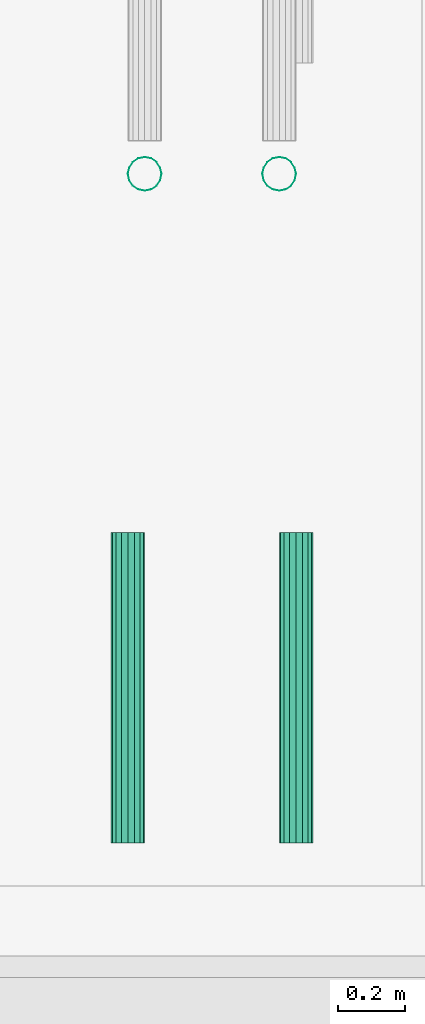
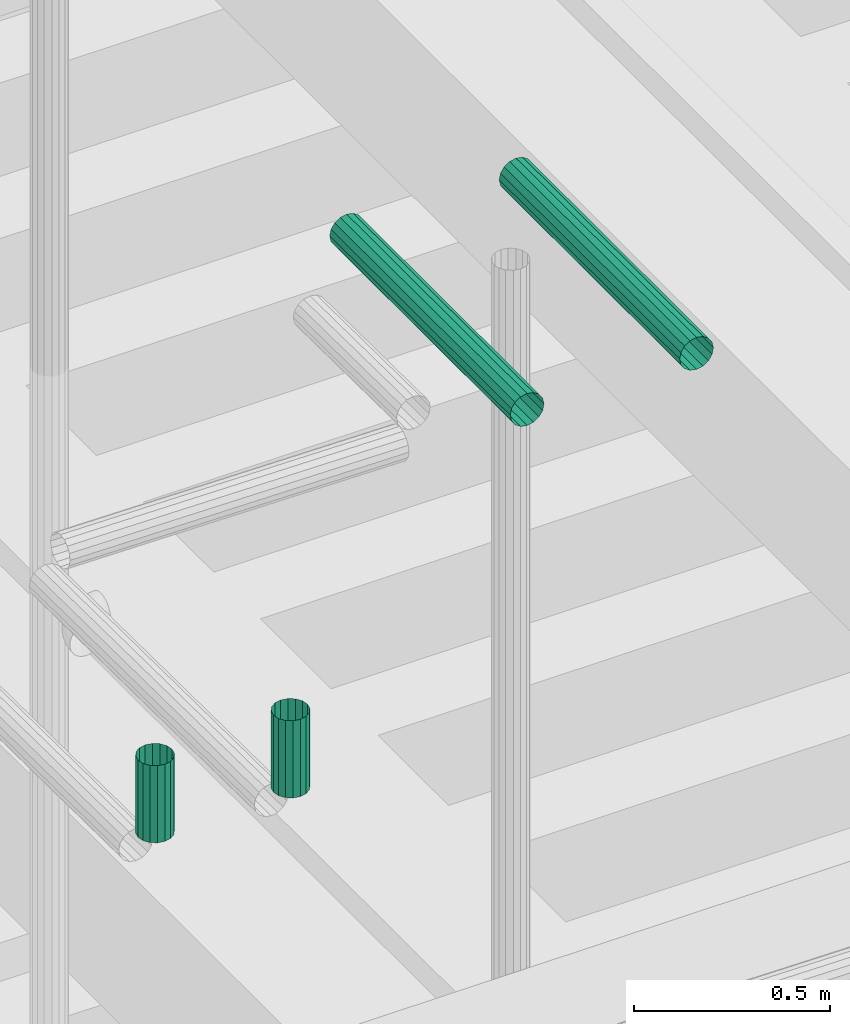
# One storey, part 71 of 108: 4 flow segments.
"""IFC2X3 building model written with IfcOpenShell, lengths in metres."""

import ifcopenshell
import ifcopenshell.guid

model = None  # the IFC model being written
_history = None  # IfcOwnerHistory: only IFC2X3 demands one
_inside = {}  # id of a spatial element -> (the spatial element, [elements in it])
_under = {}  # id of a project, library or spatial element -> (it, [spatial elements below it])
_declared = {}  # id of a project -> (the project, [libraries it declares])
_typed = {}  # id of a type object -> (the type object, [elements of that type])
_made_of = {}  # id of a material, layer set ... -> (it, [elements and type objects made of it])


def new_model(schema):
    """Start an empty IFC model of exactly this schema.

    Asked for "IFC4X3", IfcOpenShell would pick the latest addendum, in which some entities
    have other attributes; the version numbers below select the first issue.
    IFC2X3 requires an IfcOwnerHistory on every rooted entity: one is made here for all.
    """
    global model, _history
    if schema == "IFC4X3":
        model = ifcopenshell.file(schema_version=(4, 3, 0, 0))
    else:
        model = ifcopenshell.file(schema=schema)
    _inside.clear()
    _under.clear()
    _declared.clear()
    _typed.clear()
    _made_of.clear()
    _history = None
    if model.schema == "IFC2X3":
        org = make("IfcOrganization", Name="unknown")
        user = make(
            "IfcPersonAndOrganization",
            ThePerson=make("IfcPerson", FamilyName="unknown"),
            TheOrganization=org,
        )
        app = make(
            "IfcApplication",
            ApplicationDeveloper=org,
            Version="unknown",
            ApplicationFullName="unknown",
            ApplicationIdentifier="unknown",
        )
        _history = make(
            "IfcOwnerHistory",
            OwningUser=user,
            OwningApplication=app,
            ChangeAction="ADDED",
            CreationDate=0,
        )
    return model


def make(cls, **values):
    """One entity of the class cls with the attributes given. An attribute that is None is left unset."""
    return model.create_entity(
        cls, **{name: value for name, value in values.items() if value is not None}
    )


def entity(cls, *values):
    """Any entity or typed value of the class cls, its attributes in the order of the schema. None: left unset."""
    e = model.create_entity(cls)
    for i, value in enumerate(values):
        if value is not None:
            e[i] = value
    return e


def rooted(cls, **values):
    """An entity with a GlobalId (a new one), such as an element, a storey or a relation."""
    return make(cls, GlobalId=ifcopenshell.guid.new(), OwnerHistory=_history, **values)


def si_unit(unit_type, name, prefix=None):
    """IfcSIUnit, for example si_unit("LENGTHUNIT", "METRE", prefix="MILLI")."""
    return make("IfcSIUnit", UnitType=unit_type, Prefix=prefix, Name=name)


def converted_unit(unit_type, name, factor, base, dimensions=None, offset=None):
    """IfcConversionBasedUnit, such as the inch: factor (a typed value) times the base unit."""
    return make(
        "IfcConversionBasedUnit"
        if offset is None
        else "IfcConversionBasedUnitWithOffset",
        ConversionOffset=offset,
        Dimensions=None
        if dimensions is None
        else entity("IfcDimensionalExponents", *dimensions),
        UnitType=unit_type,
        Name=name,
        ConversionFactor=make(
            "IfcMeasureWithUnit", ValueComponent=factor, UnitComponent=base
        ),
    )


def derived_unit(unit_type, elements):
    """IfcDerivedUnit: a product of units, each with its exponent."""
    return make(
        "IfcDerivedUnit",
        Elements=[
            make("IfcDerivedUnitElement", Unit=unit, Exponent=power)
            for unit, power in elements
        ],
        UnitType=unit_type,
    )


def money_unit(currency):
    """IfcMonetaryUnit."""
    return make("IfcMonetaryUnit", Currency=currency)


def assignment(units):
    """IfcUnitAssignment: the units of a project."""
    return None if units is None else make("IfcUnitAssignment", Units=units)


def point(xyz):
    """IfcCartesianPoint."""
    return None if xyz is None else make("IfcCartesianPoint", Coordinates=xyz)


def direction(xyz):
    """IfcDirection."""
    return None if xyz is None else make("IfcDirection", DirectionRatios=xyz)


def frame(location, z_axis=None, x_axis=None):
    """IfcAxis2Placement3D, a coordinate frame: its origin and axes. An axis left out is left unset."""
    return make(
        "IfcAxis2Placement3D",
        Location=point(location),
        Axis=direction(z_axis),
        RefDirection=direction(x_axis),
    )


def origin_with_axes():
    """The frame at (0, 0, 0) with the z axis (0, 0, 1) and the x axis (1, 0, 0) written out."""
    return frame((0.0, 0.0, 0.0), z_axis=(0.0, 0.0, 1.0), x_axis=(1.0, 0.0, 0.0))


def place(relative_to, where):
    """IfcLocalPlacement: puts the frame where relative to a parent placement (None: the world)."""
    return make(
        "IfcLocalPlacement", PlacementRelTo=relative_to, RelativePlacement=where
    )


def context(
    kind, dimensions, precision=None, world=None, true_north=None, identifier=None
):
    """IfcGeometricRepresentationContext, for example the 3D "Model" context."""
    return make(
        "IfcGeometricRepresentationContext",
        ContextIdentifier=identifier,
        ContextType=kind,
        CoordinateSpaceDimension=dimensions,
        Precision=precision,
        WorldCoordinateSystem=world,
        TrueNorth=true_north,
    )


def subcontext(parent, identifier, kind, view, scale=None):
    """IfcGeometricRepresentationSubContext, for example "Body" below "Model"."""
    return make(
        "IfcGeometricRepresentationSubContext",
        ContextIdentifier=identifier,
        ContextType=kind,
        ParentContext=parent,
        TargetScale=scale,
        TargetView=view,
    )


def project(units=None, contexts=None):
    """IfcProject with its units and contexts."""
    return rooted(
        "IfcProject",
        Name="project",
        RepresentationContexts=contexts,
        UnitsInContext=assignment(units),
    )


def spatial(cls, under=None, at=None, **own):
    """A site, building, storey or space (cls), placed at a placement, below another one or the project."""
    s = rooted(cls, ObjectPlacement=at, **own)
    if under is not None:
        _under.setdefault(under.id(), (under, []))[1].append(s)
    return s


def faces_of(points, faces, orient=None, outer=None):
    """IfcFace entities. A face is a list of loops; a loop is a list of indices into points, from 0.

    orient and outer hold one flag for each loop. By default every Orientation is true, the
    first loop of a face is its IfcFaceOuterBound and the others are IfcFaceBound.
    """
    made = []
    for i, loops in enumerate(faces):
        bounds = []
        for j, loop in enumerate(loops):
            is_outer = j == 0 if outer is None else outer[i][j]
            bounds.append(
                make(
                    "IfcFaceOuterBound" if is_outer else "IfcFaceBound",
                    Bound=make("IfcPolyLoop", Polygon=[points[k] for k in loop]),
                    Orientation=True if orient is None else orient[i][j],
                )
            )
        made.append(make("IfcFace", Bounds=bounds))
    return made


def faceted_brep(points, faces, orient=None, outer=None, voids=None):
    """IfcFacetedBrep: a solid bounded by flat faces; with voids (closed shells), ...WithVoids."""
    shared = [point(p) for p in points]
    hull = make("IfcClosedShell", CfsFaces=faces_of(shared, faces, orient, outer))
    if voids is None:
        return make("IfcFacetedBrep", Outer=hull)
    return make(
        "IfcFacetedBrepWithVoids",
        Outer=hull,
        Voids=[
            make(cls, CfsFaces=faces_of(shared, fs, o, b)) for cls, fs, o, b in voids
        ],
    )


def shape(context_of_items, identifier, shape_type, items):
    """IfcShapeRepresentation: the items that make up one representation, for example the "Body"."""
    return make(
        "IfcShapeRepresentation",
        ContextOfItems=context_of_items,
        RepresentationIdentifier=identifier,
        RepresentationType=shape_type,
        Items=items,
    )


def material(Name=None, Category=None):
    """IfcMaterial."""
    return make("IfcMaterial", Name=Name, Category=Category)


def made_of(thing, what):
    """Note that an element or type object is made of a material, layer set ...; save() writes the relation."""
    if what is not None:
        _made_of.setdefault(what.id(), (what, []))[1].append(thing)
    return thing


def type_object(cls, material=None, **own):
    """A type object (cls), such as IfcWallType, which elements share."""
    return made_of(rooted(cls, **own), material)


def element(
    cls,
    number,
    at=None,
    inside=None,
    cuts=None,
    type_object=None,
    material=None,
    context=None,
    identifier="Body",
    shape_type=None,
    held_by="IfcProductDefinitionShape",
    body=None,
    shapes=None,
    **own,
):
    """One element of the class cls, such as IfcWall. Its Tag is "e" and its number.

    at: its placement. inside: the storey or other place that contains it. cuts: it is an
    opening in that element (IfcRelVoidsElement). A single representation is given by context,
    identifier, shape_type and body (its items); several are given by shapes. held_by: the class
    of the entity that holds the representations. save() writes the other relations.
    """
    e = rooted(cls, Tag="e%d" % number, ObjectPlacement=at, **own)
    if body is not None:
        shapes = [shape(context, identifier, shape_type, body)]
    if shapes is not None:
        e.Representation = make(held_by, Representations=shapes)
    if inside is not None:
        _inside.setdefault(inside.id(), (inside, []))[1].append(e)
    if cuts is not None:
        rooted(
            "IfcRelVoidsElement", RelatingBuildingElement=cuts, RelatedOpeningElement=e
        )
    if type_object is not None:
        _typed.setdefault(type_object.id(), (type_object, []))[1].append(e)
    return made_of(e, material)


def aggregate(whole, parts):
    """IfcRelAggregates: a whole, such as a stair, and the parts it consists of."""
    return rooted("IfcRelAggregates", RelatingObject=whole, RelatedObjects=parts)


def save(model, path):
    """Write the relations noted so far, then the file.

    IfcRelAggregates (storeys below a building ...), IfcRelContainedInSpatialStructure (elements
    in a storey), IfcRelDefinesByType, IfcRelAssociatesMaterial and IfcRelDeclares: one each for
    every whole, place, type object, material and project.
    """
    for whole, parts in _under.values():
        aggregate(whole, parts)
    for where, things in _inside.values():
        rooted(
            "IfcRelContainedInSpatialStructure",
            RelatedElements=things,
            RelatingStructure=where,
        )
    for kind, things in _typed.values():
        rooted("IfcRelDefinesByType", RelatedObjects=things, RelatingType=kind)
    for what, things in _made_of.values():
        rooted("IfcRelAssociatesMaterial", RelatedObjects=things, RelatingMaterial=what)
    for by, libraries in _declared.values():
        rooted("IfcRelDeclares", RelatingContext=by, RelatedDefinitions=libraries)
    model.write(path)


model = new_model("IFC2X3")

# Units and contexts
model_context = context("Model", 3, precision=1e-05, world=origin_with_axes(), true_north=direction((0.0, 1.0)))
body_context = subcontext(model_context, "Body", "Model", "MODEL_VIEW", scale=1.0)
ifc_project = project(units=[si_unit("LENGTHUNIT", "METRE"), si_unit("AREAUNIT", "SQUARE_METRE"), si_unit("VOLUMEUNIT", "CUBIC_METRE"), si_unit("ABSORBEDDOSEUNIT", "GRAY"), si_unit("AMOUNTOFSUBSTANCEUNIT", "MOLE"), si_unit("DOSEEQUIVALENTUNIT", "SIEVERT"), si_unit("ELECTRICCAPACITANCEUNIT", "FARAD"), si_unit("ELECTRICCHARGEUNIT", "COULOMB"), si_unit("ELECTRICCONDUCTANCEUNIT", "SIEMENS"), si_unit("ELECTRICCURRENTUNIT", "AMPERE"), si_unit("ELECTRICRESISTANCEUNIT", "OHM"), si_unit("ELECTRICVOLTAGEUNIT", "VOLT"), si_unit("ENERGYUNIT", "JOULE"), si_unit("FORCEUNIT", "NEWTON"), si_unit("FREQUENCYUNIT", "HERTZ"), si_unit("ILLUMINANCEUNIT", "LUX"), si_unit("INDUCTANCEUNIT", "HENRY"), si_unit("LUMINOUSFLUXUNIT", "LUMEN"), si_unit("LUMINOUSINTENSITYUNIT", "CANDELA"), si_unit("MAGNETICFLUXDENSITYUNIT", "TESLA"), si_unit("MAGNETICFLUXUNIT", "WEBER"), si_unit("MASSUNIT", "GRAM"), converted_unit("PLANEANGLEUNIT", "degree", entity("IfcReal", 0.0174532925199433), si_unit("PLANEANGLEUNIT", "RADIAN"), dimensions=[0, 0, 0, 0, 0, 0, 0]), si_unit("POWERUNIT", "WATT"), si_unit("PRESSUREUNIT", "PASCAL"), si_unit("RADIOACTIVITYUNIT", "BECQUEREL"), si_unit("SOLIDANGLEUNIT", "STERADIAN"), si_unit("THERMODYNAMICTEMPERATUREUNIT", "KELVIN"), si_unit("TIMEUNIT", "SECOND"), derived_unit("ACCELERATIONUNIT", [(si_unit("LENGTHUNIT", "METRE"), 1), (si_unit("TIMEUNIT", "SECOND"), -2)]), derived_unit("ANGULARVELOCITYUNIT", [(converted_unit("PLANEANGLEUNIT", "degree", entity("IfcReal", 0.0174532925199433), si_unit("PLANEANGLEUNIT", "RADIAN"), dimensions=[0, 0, 0, 0, 0, 0, 0]), 1), (si_unit("TIMEUNIT", "SECOND"), -1)]), derived_unit("CURVATUREUNIT", [(converted_unit("PLANEANGLEUNIT", "degree", entity("IfcReal", 0.0174532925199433), si_unit("PLANEANGLEUNIT", "RADIAN"), dimensions=[0, 0, 0, 0, 0, 0, 0]), 1), (si_unit("LENGTHUNIT", "METRE"), -1)]), derived_unit("DYNAMICVISCOSITYUNIT", [(si_unit("PRESSUREUNIT", "PASCAL"), 1), (si_unit("TIMEUNIT", "SECOND"), 1)]), derived_unit("HEATFLUXDENSITYUNIT", [(si_unit("POWERUNIT", "WATT"), 1), (si_unit("LENGTHUNIT", "METRE"), -2)]), derived_unit("HEATINGVALUEUNIT", [(si_unit("ENERGYUNIT", "JOULE"), 1), (si_unit("MASSUNIT", "GRAM"), -1)]), derived_unit("INTEGERCOUNTRATEUNIT", [(si_unit("TIMEUNIT", "SECOND"), -1)]), derived_unit("IONCONCENTRATIONUNIT", [(si_unit("MASSUNIT", "GRAM"), 1), (si_unit("VOLUMEUNIT", "CUBIC_METRE"), -1)]), derived_unit("ISOTHERMALMOISTURECAPACITYUNIT", [(si_unit("VOLUMEUNIT", "CUBIC_METRE"), 1), (si_unit("MASSUNIT", "GRAM"), -1)]), derived_unit("KINEMATICVISCOSITYUNIT", [(si_unit("AREAUNIT", "SQUARE_METRE"), 1), (si_unit("TIMEUNIT", "SECOND"), -1)]), derived_unit("LINEARFORCEUNIT", [(si_unit("FORCEUNIT", "NEWTON"), 1), (si_unit("LENGTHUNIT", "METRE"), -1)]), derived_unit("LINEARMOMENTUNIT", [(si_unit("FORCEUNIT", "NEWTON"), 1), (si_unit("LENGTHUNIT", "METRE"), -1)]), derived_unit("LINEARSTIFFNESSUNIT", [(si_unit("FORCEUNIT", "NEWTON"), 1), (si_unit("LENGTHUNIT", "METRE"), -1)]), derived_unit("LINEARVELOCITYUNIT", [(si_unit("LENGTHUNIT", "METRE"), 1), (si_unit("TIMEUNIT", "SECOND"), -1)]), derived_unit("LUMINOUSINTENSITYDISTRIBUTIONUNIT", [(si_unit("LUMINOUSINTENSITYUNIT", "CANDELA"), 1), (si_unit("LUMINOUSFLUXUNIT", "LUMEN"), -1)]), derived_unit("MASSDENSITYUNIT", [(si_unit("MASSUNIT", "GRAM"), 1), (si_unit("VOLUMEUNIT", "CUBIC_METRE"), -1)]), derived_unit("MASSFLOWRATEUNIT", [(si_unit("MASSUNIT", "GRAM"), 1), (si_unit("TIMEUNIT", "SECOND"), -1)]), derived_unit("MASSPERLENGTHUNIT", [(si_unit("MASSUNIT", "GRAM"), 1), (si_unit("LENGTHUNIT", "METRE"), -1)]), derived_unit("MODULUSOFELASTICITYUNIT", [(si_unit("FORCEUNIT", "NEWTON"), 1), (si_unit("AREAUNIT", "SQUARE_METRE"), -1)]), derived_unit("MODULUSOFLINEARSUBGRADEREACTIONUNIT", [(si_unit("FORCEUNIT", "NEWTON"), 1), (si_unit("LENGTHUNIT", "METRE"), -2)]), derived_unit("MODULUSOFROTATIONALSUBGRADEREACTIONUNIT", [(si_unit("FORCEUNIT", "NEWTON"), 1), (si_unit("LENGTHUNIT", "METRE"), 1)]), derived_unit("MODULUSOFSUBGRADEREACTIONUNIT", [(si_unit("FORCEUNIT", "NEWTON"), 1), (si_unit("VOLUMEUNIT", "CUBIC_METRE"), -1)]), derived_unit("MOISTUREDIFFUSIVITYUNIT", [(si_unit("VOLUMEUNIT", "CUBIC_METRE"), 1), (si_unit("TIMEUNIT", "SECOND"), -1)]), derived_unit("MOLECULARWEIGHTUNIT", [(si_unit("MASSUNIT", "GRAM"), 1), (si_unit("AMOUNTOFSUBSTANCEUNIT", "MOLE"), -1)]), derived_unit("PLANARFORCEUNIT", [(si_unit("FORCEUNIT", "NEWTON"), 1), (si_unit("LENGTHUNIT", "METRE"), -2)]), derived_unit("ROTATIONALFREQUENCYUNIT", [(si_unit("TIMEUNIT", "SECOND"), -1)]), derived_unit("ROTATIONALMASSUNIT", [(si_unit("MASSUNIT", "GRAM"), 1), (si_unit("LENGTHUNIT", "METRE"), 2)]), derived_unit("ROTATIONALSTIFFNESSUNIT", [(si_unit("FORCEUNIT", "NEWTON"), 1), (si_unit("LENGTHUNIT", "METRE"), 1), (converted_unit("PLANEANGLEUNIT", "degree", entity("IfcReal", 0.0174532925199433), si_unit("PLANEANGLEUNIT", "RADIAN"), dimensions=[0, 0, 0, 0, 0, 0, 0]), -1)]), derived_unit("SECTIONAREAINTEGRALUNIT", [(si_unit("LENGTHUNIT", "METRE"), 5)]), derived_unit("SECTIONMODULUSUNIT", [(si_unit("LENGTHUNIT", "METRE"), 3)]), derived_unit("SHEARMODULUSUNIT", [(si_unit("FORCEUNIT", "NEWTON"), 1), (si_unit("AREAUNIT", "SQUARE_METRE"), -1)]), derived_unit("SOUNDPOWERUNIT", [(si_unit("ENERGYUNIT", "JOULE"), 1), (si_unit("TIMEUNIT", "SECOND"), -1)]), derived_unit("SPECIFICHEATCAPACITYUNIT", [(si_unit("FORCEUNIT", "NEWTON"), 1), (si_unit("MASSUNIT", "GRAM"), -1), (si_unit("THERMODYNAMICTEMPERATUREUNIT", "KELVIN"), -1)]), derived_unit("TEMPERATUREGRADIENTUNIT", [(si_unit("THERMODYNAMICTEMPERATUREUNIT", "KELVIN"), 1), (si_unit("LENGTHUNIT", "METRE"), -1)]), derived_unit("THERMALADMITTANCEUNIT", [(si_unit("POWERUNIT", "WATT"), 1), (si_unit("AREAUNIT", "SQUARE_METRE"), -1), (si_unit("THERMODYNAMICTEMPERATUREUNIT", "KELVIN"), -1)]), derived_unit("THERMALCONDUCTANCEUNIT", [(si_unit("POWERUNIT", "WATT"), 1), (si_unit("LENGTHUNIT", "METRE"), -1), (si_unit("THERMODYNAMICTEMPERATUREUNIT", "KELVIN"), -1)]), derived_unit("THERMALEXPANSIONCOEFFICIENTUNIT", [(si_unit("THERMODYNAMICTEMPERATUREUNIT", "KELVIN"), -1)]), derived_unit("THERMALRESISTANCEUNIT", [(si_unit("AREAUNIT", "SQUARE_METRE"), 1), (si_unit("POWERUNIT", "WATT"), -1)]), derived_unit("THERMALTRANSMITTANCEUNIT", [(si_unit("POWERUNIT", "WATT"), 1), (si_unit("AREAUNIT", "SQUARE_METRE"), -1), (si_unit("THERMODYNAMICTEMPERATUREUNIT", "KELVIN"), -1)]), derived_unit("TORQUEUNIT", [(si_unit("FORCEUNIT", "NEWTON"), 1), (si_unit("LENGTHUNIT", "METRE"), 1)]), derived_unit("VAPORPERMEABILITYUNIT", [(si_unit("MASSUNIT", "GRAM"), 1), (si_unit("TIMEUNIT", "SECOND"), -1)]), derived_unit("VOLUMETRICFLOWRATEUNIT", [(si_unit("VOLUMEUNIT", "CUBIC_METRE"), 1), (si_unit("TIMEUNIT", "SECOND"), -1)]), derived_unit("WARPINGCONSTANTUNIT", [(si_unit("LENGTHUNIT", "METRE"), 6)]), derived_unit("WARPINGMOMENTUNIT", [(si_unit("FORCEUNIT", "NEWTON"), 1), (si_unit("LENGTHUNIT", "METRE"), 2)]), money_unit("GBP")], contexts=[model_context])

# Site, building, storey
site_placement = place(None, origin_with_axes())
site = spatial("IfcSite", under=ifc_project, at=site_placement, Name="Site", CompositionType="ELEMENT")
building_placement = place(site_placement, origin_with_axes())
building = spatial("IfcBuilding", under=site, at=building_placement, Name="Building01", CompositionType="ELEMENT")
storey_placement = place(building_placement, origin_with_axes())
storey = spatial("IfcBuildingStorey", under=building, at=storey_placement, Name="GF", CompositionType="ELEMENT", Elevation=0.0)

# Flow segments
ifc_material_1 = material(Name="M_BSUK_Ventilation")
duct_segment_type = type_object("IfcDuctSegmentType", Name="M-RoundDuct", PredefinedType="RIGIDSEGMENT")
for number, where, z_axis, x_axis, name in (
    (1, (13.75, 0.800593, 17.28), (0.0, 0.0, 1.0), (0.0, 1.0, 0.0), "M-RoundDuct"),
    (2, (13.25, 0.800593, 17.28), (0.0, 0.0, 1.0), (0.0, 1.0, 0.0), "M-RoundDuct"),
):
    element("IfcFlowSegment", number, at=place(storey_placement, frame(where, z_axis=z_axis, x_axis=x_axis)), inside=storey, type_object=duct_segment_type, material=ifc_material_1, Name=name, ObjectType="M-RoundDuct", context=body_context, shape_type="Brep", body=[
        faceted_brep([(0.922649, 0.0, -0.05), (0.0, 0.0, -0.05), (0.0, 0.019134, -0.046194), (0.922649, 0.019134, -0.046194), (0.0, 0.035355, -0.035355), (0.922649, 0.035355, -0.035355), (0.0, 0.046194, -0.019134), (0.922649, 0.046194, -0.019134), (0.0, 0.05, 0.0), (0.922649, 0.05, 0.0), (0.0, 0.046194, 0.019134), (0.922649, 0.046194, 0.019134), (0.0, 0.035355, 0.035355), (0.922649, 0.035355, 0.035355), (0.0, 0.019134, 0.046194), (0.922649, 0.019134, 0.046194), (0.0, 0.0, 0.05), (0.922649, 0.0, 0.05), (0.0, -0.019134, 0.046194), (0.922649, -0.019134, 0.046194), (0.0, -0.035355, 0.035355), (0.922649, -0.035355, 0.035355), (0.0, -0.046194, 0.019134), (0.922649, -0.046194, 0.019134), (0.0, -0.05, 0.0), (0.922649, -0.05, 0.0), (0.0, -0.046194, -0.019134), (0.922649, -0.046194, -0.019134), (0.0, -0.035355, -0.035355), (0.922649, -0.035355, -0.035355), (0.0, -0.019134, -0.046194), (0.922649, -0.019134, -0.046194)], [[[0, 1, 2, 3]], [[3, 2, 4, 5]], [[5, 4, 6, 7]], [[7, 6, 8, 9]], [[9, 8, 10, 11]], [[11, 10, 12, 13]], [[13, 12, 14, 15]], [[15, 14, 16, 17]], [[17, 16, 18, 19]], [[19, 18, 20, 21]], [[21, 20, 22, 23]], [[23, 22, 24, 25]], [[25, 24, 26, 27]], [[27, 26, 28, 29]], [[29, 28, 30, 31]], [[31, 30, 1, 0]]]),
    ])
ifc_material_2 = material(Name="M_BSUK_ColdWater")
pipe_segment_type = type_object("IfcPipeSegmentType", Name="M-BmpStraightpipe-DefaultPipe", PredefinedType="RIGIDSEGMENT")
for number, where, z_axis, x_axis in (
    (3, (13.3, 2.789428, 14.98), (1.0, 0.0, 0.0), (0.0, 0.0, -1.0)),
    (4, (13.7, 2.789428, 14.98), (1.0, 0.0, 0.0), (0.0, 0.0, -1.0)),
):
    element("IfcFlowSegment", number, at=place(storey_placement, frame(where, z_axis=z_axis, x_axis=x_axis)), inside=storey, type_object=pipe_segment_type, material=ifc_material_2, Name="M-BmpStraightpipe-DefaultPipe", ObjectType="M-BmpStraightpipe-DefaultPipe", context=body_context, shape_type="Brep", body=[
        faceted_brep([(0.240779, 0.0, -0.05), (0.0, 0.0, -0.05), (0.0, 0.019134, -0.046194), (0.240779, 0.019134, -0.046194), (0.0, 0.035355, -0.035355), (0.240779, 0.035355, -0.035355), (0.0, 0.046194, -0.019134), (0.240779, 0.046194, -0.019134), (0.0, 0.05, 0.0), (0.240779, 0.05, 0.0), (0.0, 0.046194, 0.019134), (0.240779, 0.046194, 0.019134), (0.0, 0.035355, 0.035355), (0.240779, 0.035355, 0.035355), (0.0, 0.019134, 0.046194), (0.240779, 0.019134, 0.046194), (0.0, 0.0, 0.05), (0.240779, 0.0, 0.05), (0.0, -0.019134, 0.046194), (0.240779, -0.019134, 0.046194), (0.0, -0.035355, 0.035355), (0.240779, -0.035355, 0.035355), (0.0, -0.046194, 0.019134), (0.240779, -0.046194, 0.019134), (0.0, -0.05, 0.0), (0.240779, -0.05, 0.0), (0.0, -0.046194, -0.019134), (0.240779, -0.046194, -0.019134), (0.0, -0.035355, -0.035355), (0.240779, -0.035355, -0.035355), (0.0, -0.019134, -0.046194), (0.240779, -0.019134, -0.046194)], [[[0, 1, 2, 3]], [[3, 2, 4, 5]], [[5, 4, 6, 7]], [[7, 6, 8, 9]], [[9, 8, 10, 11]], [[11, 10, 12, 13]], [[13, 12, 14, 15]], [[15, 14, 16, 17]], [[17, 16, 18, 19]], [[19, 18, 20, 21]], [[21, 20, 22, 23]], [[23, 22, 24, 25]], [[25, 24, 26, 27]], [[27, 26, 28, 29]], [[29, 28, 30, 31]], [[31, 30, 1, 0]]]),
    ])

save(model, "model.ifc")
